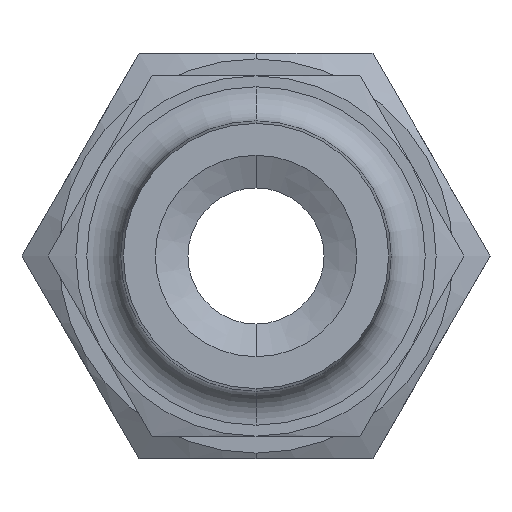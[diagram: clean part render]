
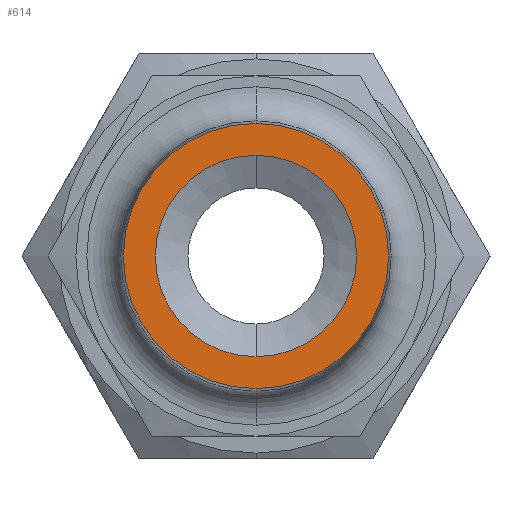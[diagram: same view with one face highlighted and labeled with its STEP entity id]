
A CAD part, left-side view. The second image highlights one B-rep face of the part: STEP entity #614.
In plain terms, the highlighted planar face has unit normal (-1, 0, 0).
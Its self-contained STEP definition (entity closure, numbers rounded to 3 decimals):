
#55 = VERTEX_POINT ( 'NONE', #664 ) ;
#57 = EDGE_CURVE ( 'NONE', #55, #58, #648, .T. ) ;
#58 = VERTEX_POINT ( 'NONE', #643 ) ;
#323 = EDGE_CURVE ( 'NONE', #324, #325, #1522, .T. ) ;
#324 = VERTEX_POINT ( 'NONE', #1517 ) ;
#325 = VERTEX_POINT ( 'NONE', #1516 ) ;
#481 = EDGE_LOOP ( 'NONE', ( #615, #617 ) ) ;
#554 = EDGE_LOOP ( 'NONE', ( #555, #557 ) ) ;
#555 = ORIENTED_EDGE ( 'NONE', *, *, #556, .F. ) ;
#556 = EDGE_CURVE ( 'NONE', #58, #55, #1671, .T. ) ;
#557 = ORIENTED_EDGE ( 'NONE', *, *, #57, .F. ) ;
#614 = ADVANCED_FACE ( 'NONE', ( #1850, #1846 ), #1845, .T. ) ;
#615 = ORIENTED_EDGE ( 'NONE', *, *, #616, .T. ) ;
#616 = EDGE_CURVE ( 'NONE', #325, #324, #1843, .T. ) ;
#617 = ORIENTED_EDGE ( 'NONE', *, *, #323, .T. ) ;
#643 = CARTESIAN_POINT ( 'NONE',  ( -18., 0., 3.55 ) ) ;
#644 = DIRECTION ( 'NONE',  ( 0., 0., 1. ) ) ;
#645 = DIRECTION ( 'NONE',  ( -1., 0., 0. ) ) ;
#646 = CARTESIAN_POINT ( 'NONE',  ( -18., 0., 0. ) ) ;
#647 = AXIS2_PLACEMENT_3D ( 'NONE', #646, #645, #644 ) ;
#648 = CIRCLE ( 'NONE', #647, 3.55 ) ;
#664 = CARTESIAN_POINT ( 'NONE',  ( -18., 0., -3.55 ) ) ;
#1516 = CARTESIAN_POINT ( 'NONE',  ( -18., 0., 4.674 ) ) ;
#1517 = CARTESIAN_POINT ( 'NONE',  ( -18., 0., -4.674 ) ) ;
#1518 = DIRECTION ( 'NONE',  ( 0., 0., 1. ) ) ;
#1519 = DIRECTION ( 'NONE',  ( -1., 0., 0. ) ) ;
#1520 = CARTESIAN_POINT ( 'NONE',  ( -18., 0., 0. ) ) ;
#1521 = AXIS2_PLACEMENT_3D ( 'NONE', #1520, #1519, #1518 ) ;
#1522 = CIRCLE ( 'NONE', #1521, 4.674 ) ;
#1671 = CIRCLE ( 'NONE', #1676, 3.55 ) ;
#1676 = AXIS2_PLACEMENT_3D ( 'NONE', #1733, #1732, #1731 ) ;
#1731 = DIRECTION ( 'NONE',  ( 0., 0., 1. ) ) ;
#1732 = DIRECTION ( 'NONE',  ( -1., 0., 0. ) ) ;
#1733 = CARTESIAN_POINT ( 'NONE',  ( -18., 0., 0. ) ) ;
#1836 = DIRECTION ( 'NONE',  ( 0., 0., 1. ) ) ;
#1837 = DIRECTION ( 'NONE',  ( -1., 0., 0. ) ) ;
#1838 = CARTESIAN_POINT ( 'NONE',  ( -18., 0., 0. ) ) ;
#1839 = AXIS2_PLACEMENT_3D ( 'NONE', #1838, #1837, #1836 ) ;
#1840 = DIRECTION ( 'NONE',  ( 0., 0., 1. ) ) ;
#1841 = DIRECTION ( 'NONE',  ( -1., 0., 0. ) ) ;
#1842 = AXIS2_PLACEMENT_3D ( 'NONE', #1844, #1841, #1840 ) ;
#1843 = CIRCLE ( 'NONE', #1839, 4.674 ) ;
#1844 = CARTESIAN_POINT ( 'NONE',  ( -18., 0., 0. ) ) ;
#1845 = PLANE ( 'NONE',  #1842 ) ;
#1846 = FACE_BOUND ( 'NONE', #554, .T. ) ;
#1850 = FACE_OUTER_BOUND ( 'NONE', #481, .T. ) ;
